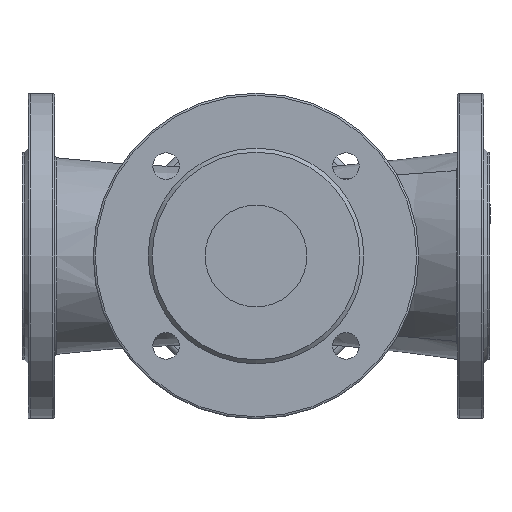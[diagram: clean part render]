
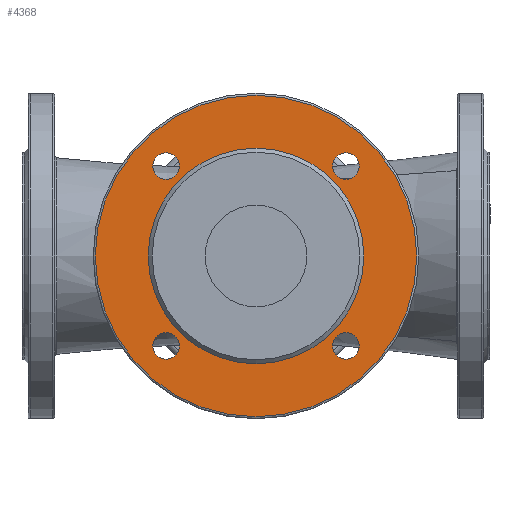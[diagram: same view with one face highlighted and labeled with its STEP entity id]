
A CAD part, front view. The second image highlights one B-rep face of the part: STEP entity #4368.
In plain terms, the highlighted planar face has unit normal (0, -1, 0).
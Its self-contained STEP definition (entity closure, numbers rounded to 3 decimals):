
#782=FACE_BOUND('',#1529,.T.);
#783=FACE_BOUND('',#1530,.T.);
#784=FACE_BOUND('',#1531,.T.);
#785=FACE_BOUND('',#1532,.T.);
#786=FACE_BOUND('',#1533,.T.);
#1117=FACE_OUTER_BOUND('',#1528,.T.);
#1528=EDGE_LOOP('',(#3624));
#1529=EDGE_LOOP('',(#3625));
#1530=EDGE_LOOP('',(#3626));
#1531=EDGE_LOOP('',(#3627));
#1532=EDGE_LOOP('',(#3628));
#1533=EDGE_LOOP('',(#3629));
#1821=CIRCLE('',#4792,6.5);
#1823=CIRCLE('',#4795,6.5);
#1825=CIRCLE('',#4798,6.5);
#1827=CIRCLE('',#4801,6.5);
#1857=CIRCLE('',#4853,53.);
#1858=CIRCLE('',#4855,79.);
#2155=VERTEX_POINT('',#7335);
#2157=VERTEX_POINT('',#7340);
#2159=VERTEX_POINT('',#7345);
#2161=VERTEX_POINT('',#7350);
#2206=VERTEX_POINT('',#8734);
#2207=VERTEX_POINT('',#8737);
#2657=EDGE_CURVE('',#2155,#2155,#1821,.T.);
#2659=EDGE_CURVE('',#2157,#2157,#1823,.T.);
#2661=EDGE_CURVE('',#2159,#2159,#1825,.T.);
#2663=EDGE_CURVE('',#2161,#2161,#1827,.T.);
#2713=EDGE_CURVE('',#2206,#2206,#1857,.T.);
#2714=EDGE_CURVE('',#2207,#2207,#1858,.T.);
#3624=ORIENTED_EDGE('',*,*,#2714,.F.);
#3625=ORIENTED_EDGE('',*,*,#2657,.T.);
#3626=ORIENTED_EDGE('',*,*,#2659,.T.);
#3627=ORIENTED_EDGE('',*,*,#2661,.T.);
#3628=ORIENTED_EDGE('',*,*,#2663,.T.);
#3629=ORIENTED_EDGE('',*,*,#2713,.F.);
#4113=PLANE('',#4854);
#4368=ADVANCED_FACE('',(#1117,#782,#783,#784,#785,#786),#4113,.T.);
#4792=AXIS2_PLACEMENT_3D('',#7336,#5803,#5804);
#4795=AXIS2_PLACEMENT_3D('',#7341,#5809,#5810);
#4798=AXIS2_PLACEMENT_3D('',#7346,#5815,#5816);
#4801=AXIS2_PLACEMENT_3D('',#7351,#5821,#5822);
#4853=AXIS2_PLACEMENT_3D('',#8735,#5926,#5927);
#4854=AXIS2_PLACEMENT_3D('',#8736,#5928,#5929);
#4855=AXIS2_PLACEMENT_3D('',#8738,#5930,#5931);
#5803=DIRECTION('center_axis',(0.,1.,0.));
#5804=DIRECTION('ref_axis',(-0.581,0.,0.814));
#5809=DIRECTION('center_axis',(0.,1.,0.));
#5810=DIRECTION('ref_axis',(-0.814,0.,-0.581));
#5815=DIRECTION('center_axis',(0.,1.,0.));
#5816=DIRECTION('ref_axis',(0.581,0.,-0.814));
#5821=DIRECTION('center_axis',(0.,1.,0.));
#5822=DIRECTION('ref_axis',(0.814,0.,0.581));
#5926=DIRECTION('center_axis',(0.,-1.,0.));
#5927=DIRECTION('ref_axis',(0.814,0.,-0.581));
#5928=DIRECTION('center_axis',(0.,-1.,0.));
#5929=DIRECTION('ref_axis',(0.,0.,-1.));
#5930=DIRECTION('center_axis',(0.,1.,0.));
#5931=DIRECTION('ref_axis',(0.,0.,-1.));
#7335=CARTESIAN_POINT('',(1489.974,1026.493,860.694));
#7336=CARTESIAN_POINT('Origin',(1489.974,1026.493,854.194));
#7340=CARTESIAN_POINT('',(1483.474,1026.493,765.806));
#7341=CARTESIAN_POINT('Origin',(1489.974,1026.493,765.806));
#7345=CARTESIAN_POINT('',(1578.363,1026.493,759.306));
#7346=CARTESIAN_POINT('Origin',(1578.363,1026.493,765.806));
#7350=CARTESIAN_POINT('',(1584.863,1026.493,854.194));
#7351=CARTESIAN_POINT('Origin',(1578.363,1026.493,854.194));
#8734=CARTESIAN_POINT('',(1587.169,1026.493,810.));
#8735=CARTESIAN_POINT('Origin',(1534.169,1026.493,810.));
#8736=CARTESIAN_POINT('Origin',(1455.169,1026.493,810.));
#8737=CARTESIAN_POINT('',(1613.169,1026.493,810.));
#8738=CARTESIAN_POINT('Origin',(1534.169,1026.493,810.));
